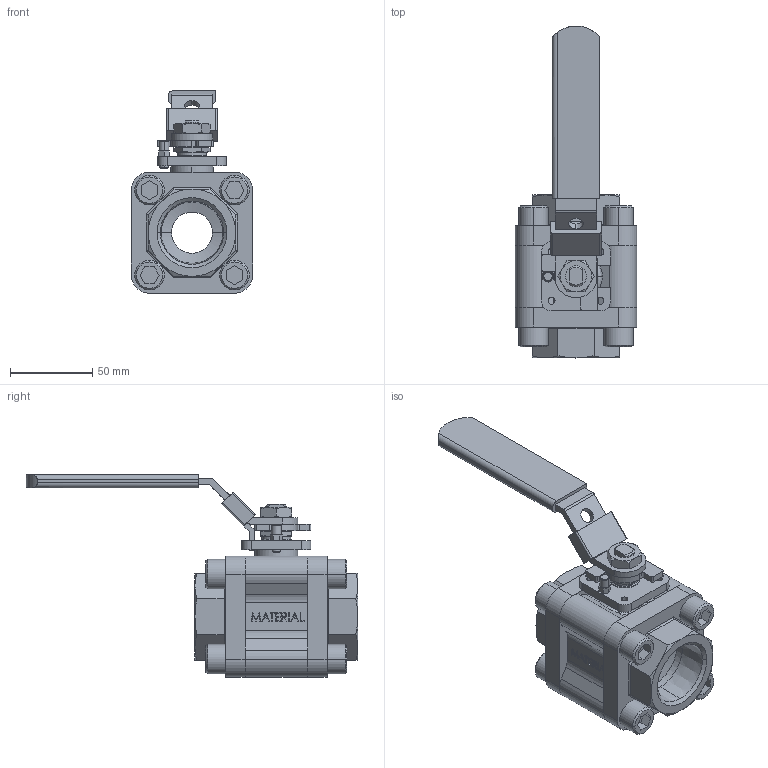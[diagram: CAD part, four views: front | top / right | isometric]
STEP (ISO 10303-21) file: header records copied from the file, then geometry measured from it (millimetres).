
FILE_DESCRIPTION(('Open CASCADE Model'),'2;1');
FILE_NAME('Open CASCADE Shape Model','2021-10-26T09:29:26',('Author'),( 'Open CASCADE'),'Open CASCADE STEP processor 7.3','Open CASCADE 7.3' ,'Unknown');
FILE_SCHEMA(('AUTOMOTIVE_DESIGN { 1 0 10303 214 1 1 1 1 }'));
Length unit declared in the file: millimetre
Products named in the file (27): Open CASCADE STEP translator 7.3 1; Open CASCADE STEP translator 7.3 1.1; Open CASCADE STEP translator 7.3 1.2; Open CASCADE STEP translator 7.3 1.3; Open CASCADE STEP translator 7.3 1.4; Open CASCADE STEP translator 7.3 1.5; Open CASCADE STEP translator 7.3 1.6; Open CASCADE STEP translator 7.3 1.7; Open CASCADE STEP translator 7.3 1.8; Open CASCADE STEP translator 7.3 1.9; Open CASCADE STEP translator 7.3 1.10; Open CASCADE STEP translator 7.3 1.11; Open CASCADE STEP translator 7.3 1.12; Open CASCADE STEP translator 7.3 1.13; Open CASCADE STEP translator 7.3 1.14; Open CASCADE STEP translator 7.3 1.15; Open CASCADE STEP translator 7.3 1.16; Open CASCADE STEP translator 7.3 1.17; Open CASCADE STEP translator 7.3 1.18; Open CASCADE STEP translator 7.3 1.19; Open CASCADE STEP translator 7.3 1.20; Open CASCADE STEP translator 7.3 1.21; Open CASCADE STEP translator 7.3 1.22; Open CASCADE STEP translator 7.3 1.23; Open CASCADE STEP translator 7.3 1.24; Open CASCADE STEP translator 7.3 1.25; Open CASCADE STEP translator 7.3 1.26
Assembly tree (26 placements, depth 2):
  Open CASCADE STEP translator 7.3 1
    Open CASCADE STEP translator 7.3 1.1
    Open CASCADE STEP translator 7.3 1.2
    Open CASCADE STEP translator 7.3 1.3
    Open CASCADE STEP translator 7.3 1.4
    Open CASCADE STEP translator 7.3 1.5
    Open CASCADE STEP translator 7.3 1.6
    Open CASCADE STEP translator 7.3 1.7
    Open CASCADE STEP translator 7.3 1.8
    Open CASCADE STEP translator 7.3 1.9
    Open CASCADE STEP translator 7.3 1.10
    Open CASCADE STEP translator 7.3 1.11
    Open CASCADE STEP translator 7.3 1.12
    Open CASCADE STEP translator 7.3 1.13
    Open CASCADE STEP translator 7.3 1.14
    Open CASCADE STEP translator 7.3 1.15
    Open CASCADE STEP translator 7.3 1.16
    Open CASCADE STEP translator 7.3 1.17
    Open CASCADE STEP translator 7.3 1.18
    Open CASCADE STEP translator 7.3 1.19
    Open CASCADE STEP translator 7.3 1.20
    Open CASCADE STEP translator 7.3 1.21
    Open CASCADE STEP translator 7.3 1.22
    Open CASCADE STEP translator 7.3 1.23
    Open CASCADE STEP translator 7.3 1.24
    Open CASCADE STEP translator 7.3 1.25
    Open CASCADE STEP translator 7.3 1.26
Bounding box: 73.62 x 201.5 x 123.01 mm (x, y, z)
Volume: 375293.2 mm3; surface area: 145107.9 mm2
Topology: 26 solids, 26 shells, 897 faces, 2198 edges, 1412 vertices
Faces by surface type: plane 421, cylinder 245, cone 151, bspline 80
Entity records: 77143 total; most frequent: CARTESIAN_POINT 33955, DIRECTION 7590, LINE 4398, VECTOR 4398, ORIENTED_EDGE 4392, PCURVE 4392, DEFINITIONAL_REPRESENTATION 4392, EDGE_CURVE 2196
